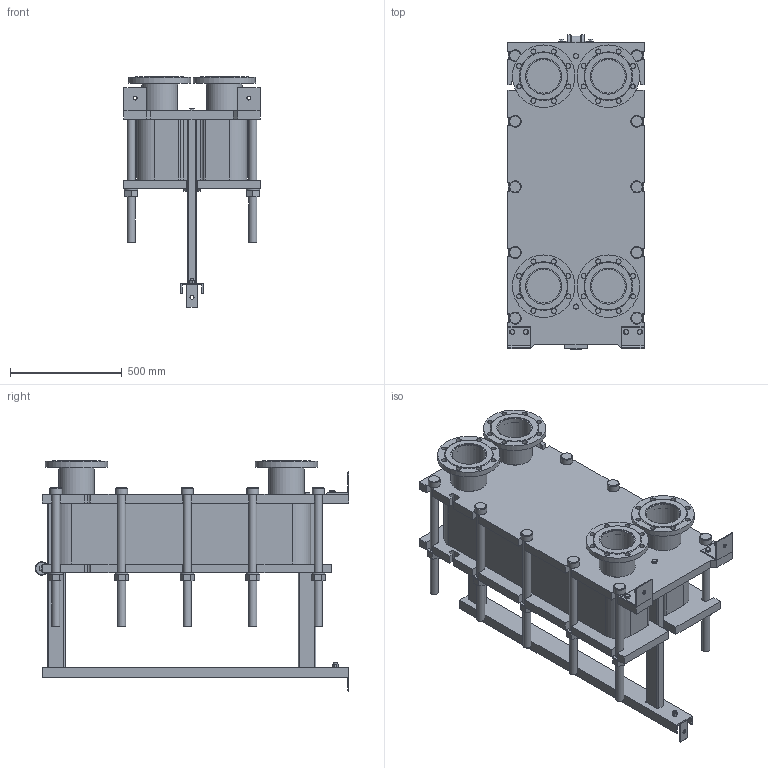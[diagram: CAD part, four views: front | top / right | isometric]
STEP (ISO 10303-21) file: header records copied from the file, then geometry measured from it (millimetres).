
FILE_DESCRIPTION(/* description */ (''),/* implementation_level */ '2;1');
FILE_NAME(/* name */ 'C:\Users\zhuro\Desktop\ENCO\TO\ЭН-041\ЭН-0,5-041-79-1.stp',/* time_stamp */ '2022-06-06T10:56:05+03:00',/* author */ ('zhuro'),/* organization */ (''),/* preprocessor_version */ 'ST-DEVELOPER v18.1',/* originating_system */ 'Autodesk Inventor 2022',/* authorisation */ '');
FILE_SCHEMA (('AUTOMOTIVE_DESIGN { 1 0 10303 214 3 1 1 }'));
Length unit declared in the file: millimetre
Products named in the file (1): ЭН-0,5-041-79-1
Bounding box: 610 x 1406.5 x 1032.5 mm (x, y, z)
Volume: 232289708.5 mm3; surface area: 8561478.3 mm2
Topology: 52 solids, 52 shells, 711 faces, 1696 edges, 1094 vertices
Faces by surface type: plane 487, cylinder 177, cone 41, torus 6
Full cylindrical faces by diameter (mm): 8 x4, 10 x2, 16 x8, 18 x3, 22 x32, 36 x24, 50 x1, 54 x10, 60 x12, 151 x4, 161 x8, 280 x4
Entity records: 22667 total; most frequent: CARTESIAN_POINT 5230, DIRECTION 3644, ORIENTED_EDGE 3392, EDGE_CURVE 1696, AXIS2_PLACEMENT_3D 1272, LINE 1100, VECTOR 1100, VERTEX_POINT 1094
